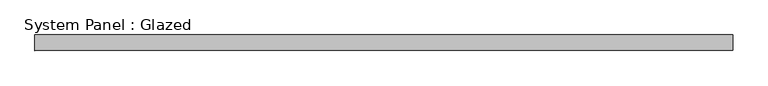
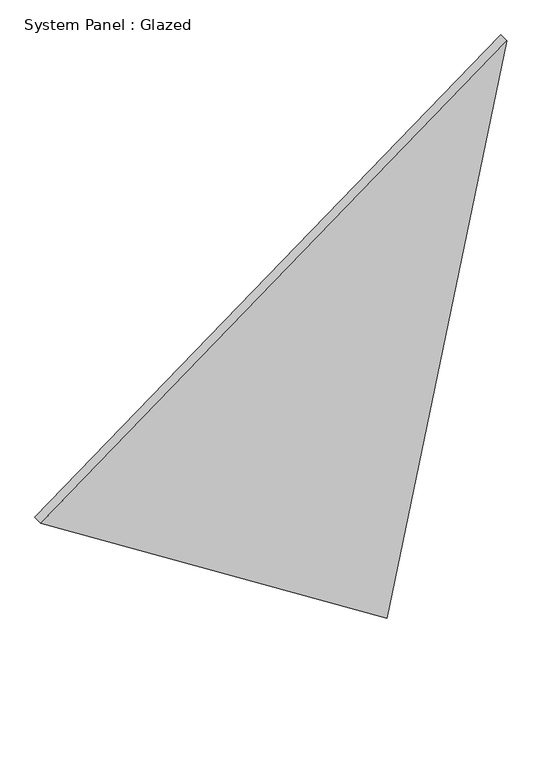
"""IFC4 building model written with IfcOpenShell, lengths in millimetres: plate geometry, System Panel : Glazed."""

from ifc_helpers import new_model, si_unit, frame, origin, place, context, project, spatial, polyline, outline, extrude, source, transform, mapped, element, save


def system_panel_glazed_820ae4db(model_context):
    return source(origin(), model_context, "Body", "SweptSolid", [
        extrude(outline(polyline([(533.853438, -560.9701085), (0.0, 271.6488964), (1367.4563804, 560.9701085), (533.853438, -560.9701085)])), frame((0.0, -49.5, 0.0), z_axis=(0.0, 1.0, 0.0), x_axis=(0.0, 0.0, 1.0)), (0.0, 0.0, 1.0), 25.0),
    ])


if __name__ == "__main__":
    model = new_model("IFC4")
    model_context = context("Model", 3, world=origin())
    ifc_project = project(units=[si_unit("LENGTHUNIT", "METRE", prefix="MILLI")], contexts=[model_context])
    site = spatial("IfcSite", under=ifc_project)
    building = spatial("IfcBuilding", under=site)
    placement = place(None, origin())
    system_panel_glazed_shape = system_panel_glazed_820ae4db(model_context)
    element("IfcPlate", 1, ObjectType="System Panel : Glazed", at=placement, inside=building, context=model_context, shape_type="MappedRepresentation", body=[
        mapped(system_panel_glazed_shape, transform((0.0, 0.0, 0.0), x_axis=(1.0, 0.0, 0.0), y_axis=(0.0, 1.0, 0.0), z_axis=(0.0, 0.0, 1.0))),
    ])
    save(model, "model.ifc")
